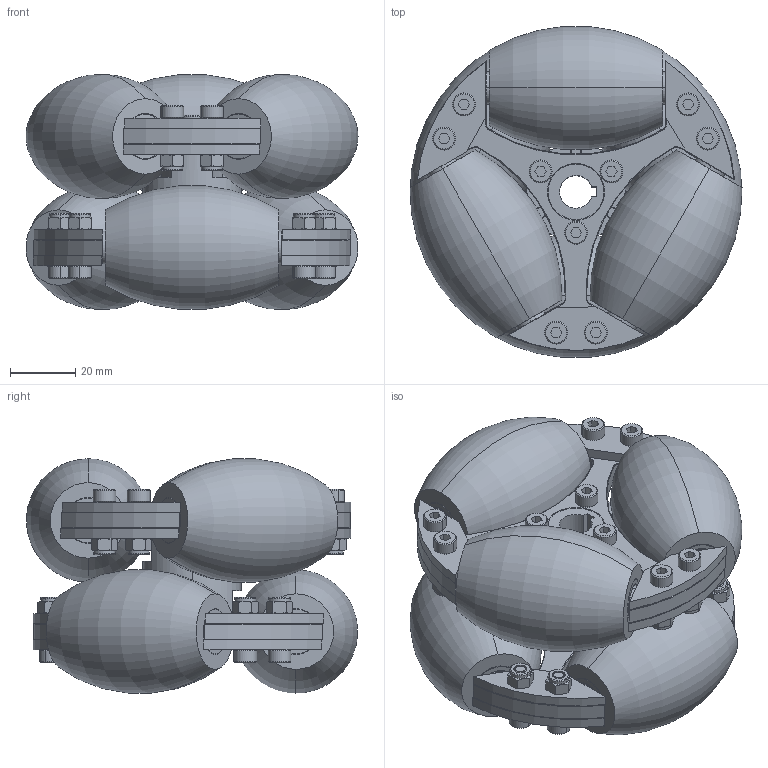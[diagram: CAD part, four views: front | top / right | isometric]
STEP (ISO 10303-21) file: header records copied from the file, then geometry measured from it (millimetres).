
FILE_DESCRIPTION (( 'STEP AP214' ), '1' );
FILE_NAME ('4寸3分90度总装（不锈钢）.STEP', '2016-07-25T10:25:13', ( '微软用户' ), ( '微软中国' ), 'SwSTEP 2.0', 'SolidWorks 2015', '' );
FILE_SCHEMA (( 'AUTOMOTIVE_DESIGN' ));
Length unit declared in the file: millimetre
Products named in the file (11): 裔え; 4渡3煦90僅謫殤; 4渡3煦90僅笢陑璃 ; 4寸3分90度总装（不锈钢）; 4渡3煦90僅等え; 戚芛蹟佪(M4X16) ; 滅侂蹟譫M4; す菜朴5; 深沟球轴承(605)14X5X5 ; 4渡4煦90僅嫖粣; 4渡陬謫-說倛謫 - 3煦
Assembly tree (48 placements, depth 3):
  4寸3分90度总装（不锈钢）
    4渡3煦90僅笢陑璃 
    4渡3煦90僅等え  x2
      4渡3煦90僅謫殤
      裔え
      4渡陬謫-說倛謫 - 3煦
      4渡4煦90僅嫖粣
      深沟球轴承(605)14X5X5 
      す菜朴5
      滅侂蹟譫M4
      戚芛蹟佪(M4X16) 
    戚芛蹟佪(M4X16)   x6
Bounding box: 101.57 x 101.18 x 71.69 mm (x, y, z)
Volume: 323845.2 mm3; surface area: 113347.8 mm2
Topology: 229 solids, 229 shells, 2172 faces, 5078 edges, 3140 vertices
Faces by surface type: plane 621, cylinder 607, torus 388, sphere 280, cone 276
Entity records: 11129 total; most frequent: DIRECTION 1990, CARTESIAN_POINT 1842, ORIENTED_EDGE 1624, EDGE_CURVE 812, AXIS2_PLACEMENT_3D 798, VERTEX_POINT 498, EDGE_LOOP 402, CIRCLE 394
